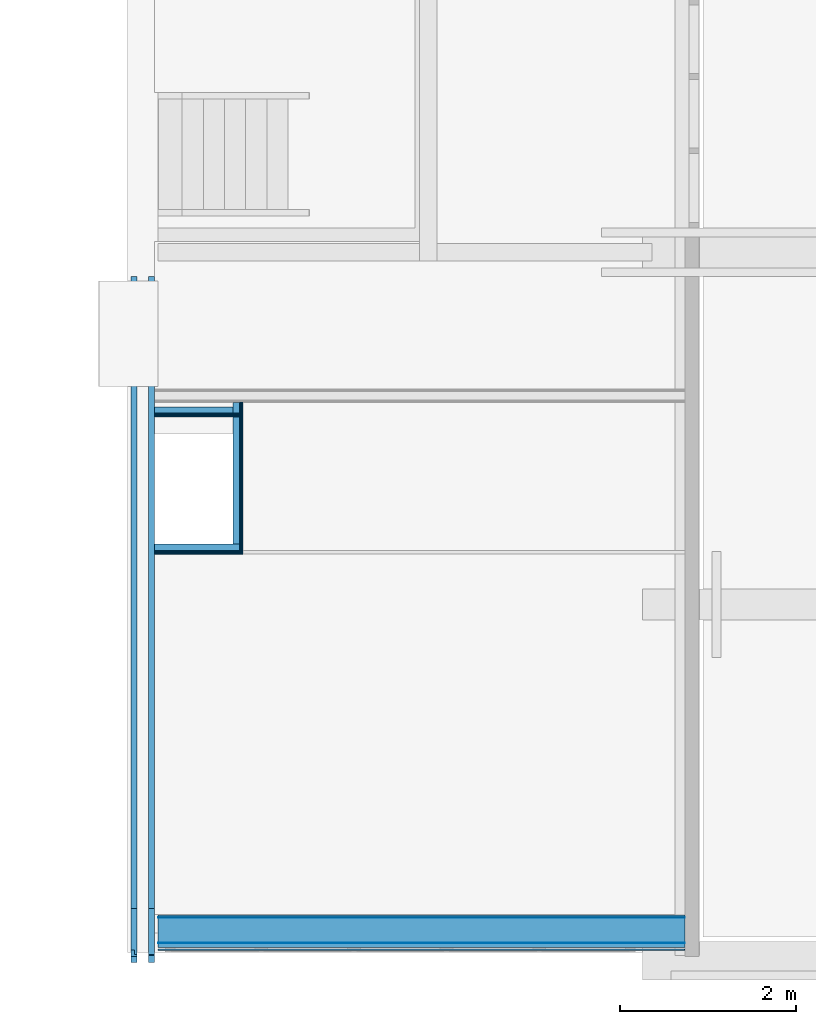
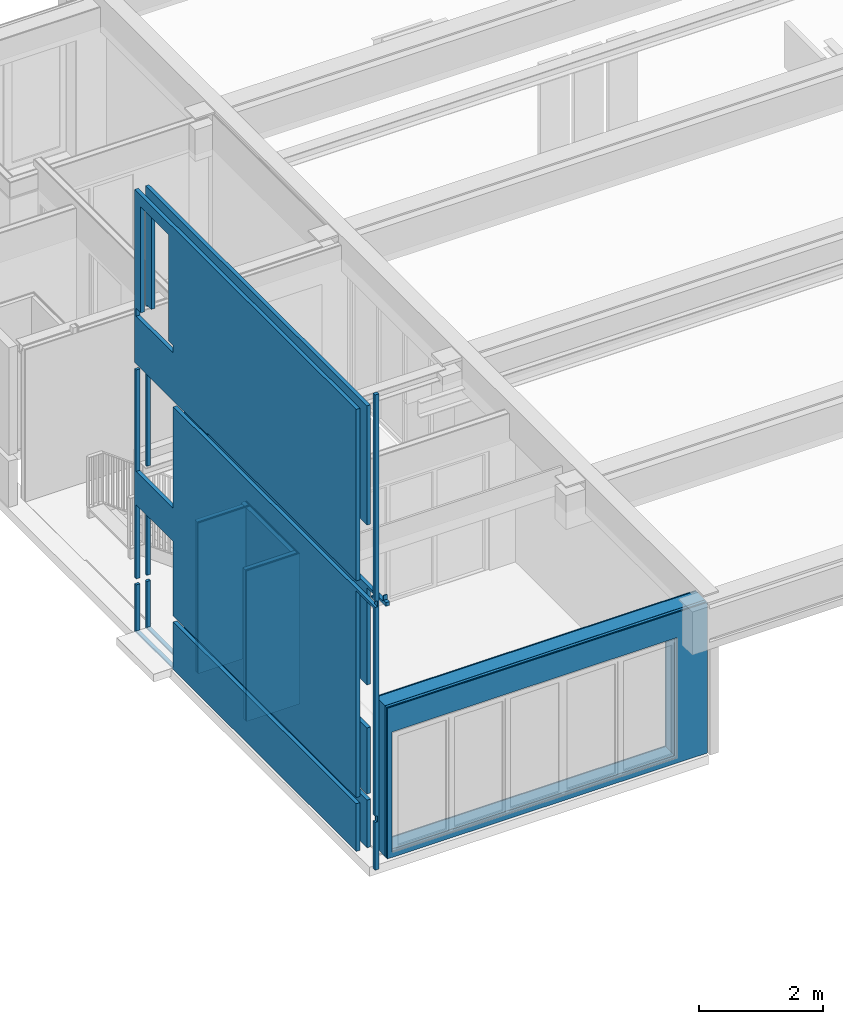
# One storey, part 5 of 13: 22 building element parts, 4 openings, 5 elements without a shape of their own.
"""IFC2X3 building model written with IfcOpenShell, lengths in millimetres."""

from ifc_helpers import new_model, entity, si_unit, converted_unit, derived_unit, money_unit, direction, frame, origin_with_axes, place, context, subcontext, project, spatial, faceted_brep, material, type_object, element, aggregate, save


model = new_model("IFC2X3")

# Units and contexts
model_context = context("Model", 3, precision=0.01, world=origin_with_axes(), true_north=direction((0.0, 1.0)))
body_context = subcontext(model_context, "Body", "Model", "MODEL_VIEW")
ifc_project = project(units=[si_unit("LENGTHUNIT", "METRE", prefix="MILLI"), si_unit("AREAUNIT", "SQUARE_METRE"), si_unit("VOLUMEUNIT", "CUBIC_METRE"), converted_unit("PLANEANGLEUNIT", "DEGREE", entity("IfcPlaneAngleMeasure", 0.0174532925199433), si_unit("PLANEANGLEUNIT", "RADIAN"), dimensions=[0, 0, 0, 0, 0, 0, 0]), money_unit("EUR"), converted_unit("TIMEUNIT", "Year", entity("IfcTimeMeasure", 31557600.0), si_unit("TIMEUNIT", "SECOND"), dimensions=[0, 0, 1, 0, 0, 0, 0]), si_unit("MASSUNIT", "GRAM", prefix="KILO"), si_unit("THERMODYNAMICTEMPERATUREUNIT", "DEGREE_CELSIUS"), si_unit("LUMINOUSINTENSITYUNIT", "LUMEN"), si_unit("ENERGYUNIT", "JOULE", prefix="MEGA"), derived_unit("THERMALCONDUCTANCEUNIT", [(si_unit("POWERUNIT", "WATT"), 1), (si_unit("LENGTHUNIT", "METRE"), -1), (si_unit("THERMODYNAMICTEMPERATUREUNIT", "KELVIN"), -1)]), derived_unit("SPECIFICHEATCAPACITYUNIT", [(si_unit("ENERGYUNIT", "JOULE"), 1), (si_unit("MASSUNIT", "GRAM", prefix="KILO"), -1), (si_unit("THERMODYNAMICTEMPERATUREUNIT", "KELVIN"), -1)]), derived_unit("MASSDENSITYUNIT", [(si_unit("MASSUNIT", "GRAM", prefix="KILO"), 1), (si_unit("VOLUMEUNIT", "CUBIC_METRE"), -1)])], contexts=[model_context])

# Site, building, storey
site_placement = place(None, origin_with_axes())
site = spatial("IfcSite", under=ifc_project, at=site_placement, Name="<site naam>", CompositionType="ELEMENT")
building_placement = place(site_placement, origin_with_axes())
building = spatial("IfcBuilding", under=site, at=building_placement, Name="<Naam gebouw>", CompositionType="ELEMENT")
storey_placement = place(building_placement, frame((0.0, 0.0, 3188.0), z_axis=(0.0, 0.0, 1.0), x_axis=(1.0, 0.0, 0.0)))
storey = spatial("IfcBuildingStorey", under=building, at=storey_placement, Name="01 1e tussenverdieping", CompositionType="ELEMENT", Elevation=3188.0)

# Wall, openings, building element parts
wall_type_1 = type_object("IfcWallType", Name="metalstud-lucht-metalstud 270 270", PredefinedType="NOTDEFINED")
wall_1_placement = place(storey_placement, frame((52000.00000000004, -63.99999999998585, -29.99999999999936), z_axis=(0.0, 0.0, 1.0), x_axis=(0.0, 1.0, 0.0)))
wall_1 = element("IfcWall", 1, at=wall_1_placement, inside=storey, type_object=wall_type_1, Name="22_Binnenwand_metalstud-lucht-metalstud")
opening_1_placement = place(wall_1_placement, frame((7139.000000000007, 0.0, 29.99999999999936), z_axis=(0.0, 0.0, 1.0), x_axis=(1.0, 0.0, 0.0)))
element("IfcOpeningElement", 2, at=opening_1_placement, cuts=wall_1, Name="22__305", context=body_context, shape_type="Brep", body=[
    faceted_brep([(599.9999999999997, 135.9999999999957, 2500.0), (599.9999999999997, 135.9999999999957, 0.0), (-599.9999999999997, 135.9999999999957, 0.0), (-599.9999999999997, 135.9999999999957, 2500.0), (599.9999999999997, -135.9999999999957, 2500.0), (599.9999999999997, -135.9999999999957, 0.0), (-599.9999999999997, -135.9999999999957, 0.0), (-599.9999999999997, -135.9999999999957, 2500.0)], [[[0, 1, 2, 3]], [[4, 5, 1, 0]], [[5, 6, 2, 1]], [[6, 7, 3, 2]], [[7, 4, 0, 3]], [[6, 5, 4, 7]]]),
])
opening_2_placement = place(wall_1_placement, frame((7139.00000000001, 0.0, 3186.999999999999), z_axis=(0.0, 0.0, 1.0), x_axis=(1.0, 0.0, 0.0)))
element("IfcOpeningElement", 3, at=opening_2_placement, cuts=wall_1, Name="22__305", context=body_context, shape_type="Brep", body=[
    faceted_brep([(599.9999999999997, 135.9999999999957, 2005.000000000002), (599.9999999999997, 135.9999999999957, 0.0), (-599.9999999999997, 135.9999999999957, 0.0), (-599.9999999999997, 135.9999999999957, 2005.000000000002), (599.9999999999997, -135.9999999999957, 2005.000000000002), (599.9999999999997, -135.9999999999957, 0.0), (-599.9999999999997, -135.9999999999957, 0.0), (-599.9999999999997, -135.9999999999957, 2005.000000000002)], [[[0, 1, 2, 3]], [[4, 5, 1, 0]], [[5, 6, 2, 1]], [[6, 7, 3, 2]], [[7, 4, 0, 3]], [[6, 5, 4, 7]]]),
])
opening_3_placement = place(wall_1_placement, frame((7144.000000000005, 0.0, 6404.999999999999), z_axis=(0.0, 0.0, 1.0), x_axis=(1.0, 0.0, 0.0)))
element("IfcOpeningElement", 4, at=opening_3_placement, cuts=wall_1, Name="22__305", context=body_context, shape_type="Brep", body=[
    faceted_brep([(450.0000000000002, 135.9999999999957, 2100.0), (450.0000000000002, 135.9999999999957, 0.0), (-450.0000000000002, 135.9999999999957, 0.0), (-450.0000000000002, 135.9999999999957, 2100.0), (450.0000000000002, -135.9999999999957, 2100.0), (450.0000000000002, -135.9999999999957, 0.0), (-450.0000000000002, -135.9999999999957, 0.0), (-450.0000000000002, -135.9999999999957, 2100.0)], [[[0, 1, 2, 3]], [[4, 5, 1, 0]], [[5, 6, 2, 1]], [[6, 7, 3, 2]], [[7, 4, 0, 3]], [[6, 5, 4, 7]]]),
])
ifc_material_1 = material(Name="metal_stud")
building_element_part_1_placement = place(wall_1_placement, origin_with_axes())
building_element_part_1 = element("IfcBuildingElementPart", 5, at=building_element_part_1_placement, material=ifc_material_1, Name="metal_stud", context=body_context, shape_type="Brep", body=[
    faceted_brep([(6539.0, -134.999999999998, 6374.499999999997), (6539.0, -134.999999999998, 6404.999999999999), (7739.0, -134.999999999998, 6404.999999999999), (7739.0, -134.999999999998, 6374.499999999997), (7789.000000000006, -134.999999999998, 6374.499999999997), (7789.000000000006, -134.999999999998, 8732.0), (613.9999999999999, -134.999999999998, 8732.0), (613.9999999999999, -134.999999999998, 6374.499999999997), (6539.0, -65.0000099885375, 6374.499999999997), (6539.0, -65.00000305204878, 6404.999999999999), (7739.0, -65.00000305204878, 6404.999999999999), (7739.0, -65.00000332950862, 6374.499999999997), (7789.000000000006, -65.00000305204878, 6374.499999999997), (7789.000000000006, -64.99999999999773, 8732.0), (613.9999999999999, -64.99999999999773, 8732.0), (613.9999999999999, -65.00004286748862, 6374.499999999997)], [[[0, 1, 2, 3, 4, 5, 6, 7]], [[1, 0, 8, 9]], [[2, 1, 9, 10]], [[3, 2, 10, 11]], [[3, 11, 12, 4]], [[4, 12, 13, 5]], [[5, 13, 14, 6]], [[14, 15, 7, 6]], [[8, 0, 7, 15]], [[9, 8, 15, 14, 13, 12, 11, 10]]]),
    faceted_brep([(74.9106781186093, -134.999999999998, 5312.000001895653), (74.9106781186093, -134.999999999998, 5216.999999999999), (0.0, -134.999999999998, 5216.999999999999), (0.0, -134.999999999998, 5141.999999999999), (614.0000000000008, -134.999999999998, 5141.999999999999), (614.0000000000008, -134.999999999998, 3216.999999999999), (7789.000000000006, -134.999999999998, 3216.999999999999), (7789.000000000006, -134.999999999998, 5192.0), (90.83801295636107, -134.999999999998, 5192.0), (90.83801295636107, -134.999999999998, 5312.000008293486), (74.9106781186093, -64.99999999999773, 5216.999999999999), (74.9106781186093, -64.99999999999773, 5312.000005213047), (0.0, -64.99999999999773, 5216.999999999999), (0.0, -65.00002351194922, 5141.999999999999), (614.0000000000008, -64.99999999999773, 5141.999999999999), (64.00000000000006, -65.00002351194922, 5141.999999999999), (614.0000000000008, -65.00002194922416, 3216.999999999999), (7789.000000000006, -65.00000156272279, 3216.999999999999), (7789.000000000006, -64.99999999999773, 5192.0), (90.83801295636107, -64.99999999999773, 5192.0), (90.83801295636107, -64.99999999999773, 5312.000008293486)], [[[0, 1, 2, 3, 4, 5, 6, 7, 8, 9]], [[10, 1, 0, 11]], [[12, 2, 1, 10]], [[13, 3, 2, 12]], [[14, 4, 3, 13, 15]], [[5, 4, 14, 16]], [[5, 16, 17, 6]], [[18, 7, 6, 17]], [[7, 18, 19, 8]], [[19, 20, 9, 8]], [[20, 11, 0, 9]], [[19, 18, 17, 16, 14, 15, 13, 12, 10, 11, 20]]]),
    faceted_brep([(613.9999999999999, -134.999999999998, 2366.999999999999), (613.9999999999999, -65.00002194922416, 2366.999999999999), (613.9999999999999, -64.99999999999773, 1061.999999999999), (613.9999999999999, -134.999999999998, 1061.999999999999), (7789.000000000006, -65.00000156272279, 2366.999999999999), (7789.000000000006, -134.999999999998, 2366.999999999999), (7789.000000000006, -64.99999999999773, 1061.999999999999), (7789.000000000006, -134.999999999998, 1061.999999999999)], [[[0, 1, 2, 3]], [[4, 1, 0, 5]], [[6, 2, 1, 4]], [[7, 3, 2, 6]], [[0, 3, 7, 5]], [[4, 5, 7, 6]]]),
    faceted_brep([(613.9999999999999, -64.99999999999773, 941.9999999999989), (613.9999999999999, -134.999999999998, 941.9999999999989), (7789.000000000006, -134.999999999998, 941.9999999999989), (7789.000000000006, -64.99999999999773, 941.9999999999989), (613.9999999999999, -134.999999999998, 0.0), (613.9999999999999, -65.00006609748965, 0.0), (7789.000000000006, -134.999999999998, 0.0), (7789.000000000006, -65.0000047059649, 0.0)], [[[0, 1, 2, 3]], [[4, 1, 0, 5]], [[1, 4, 6, 2]], [[3, 2, 6, 7]], [[5, 0, 3, 7]], [[4, 5, 7, 6]]]),
])
building_element_part_2_placement = place(wall_1_placement, origin_with_axes())
building_element_part_2 = element("IfcBuildingElementPart", 6, at=building_element_part_2_placement, material=ifc_material_1, Name="metal_stud", context=body_context, shape_type="Brep", body=[
    faceted_brep([(90.83801295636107, 64.99999999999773, 5192.0), (90.83801295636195, 64.99999999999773, 5311.999999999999), (90.83801295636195, 64.99999999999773, 5341.999999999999), (64.00000000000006, 64.99999999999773, 5341.999999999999), (63.99997390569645, 64.99999999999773, 9392.000014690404), (0.0, 64.99999999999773, 9392.000014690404), (0.0, 64.99999999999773, 0.0), (64.00000000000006, 64.99999999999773, 0.0), (64.00000000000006, 64.99999999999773, 5141.999999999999), (614.0000000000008, 64.99999999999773, 5141.999999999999), (614.0000000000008, 64.99999999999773, 1061.999999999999), (7789.000000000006, 64.99999999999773, 1061.999999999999), (7789.000000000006, 64.99999999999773, 5192.0), (90.83801295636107, 95.00000000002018, 5192.0), (90.83801295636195, 95.00000000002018, 5311.999999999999), (90.83801295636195, 95.00000000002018, 5341.999999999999), (139.0000000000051, 95.00000000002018, 5341.999999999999), (139.0000000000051, 134.999999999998, 5341.999999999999), (64.00000000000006, 134.999999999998, 5341.999999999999), (63.99997390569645, 134.999999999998, 9392.000014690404), (0.0, 134.999999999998, 9392.000014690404), (0.0, 134.999999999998, 5192.0), (0.0, 134.999999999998, 1061.999999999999), (0.0, 95.50000000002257, 1061.999999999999), (0.0, 95.50000000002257, 941.9999999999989), (0.0, 134.999999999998, 941.9999999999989), (0.0, 134.999999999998, 0.0), (0.0, 134.999999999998, 5311.999999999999), (0.0, 95.00000000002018, 5311.999999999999), (0.0, 95.00000000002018, 5192.0), (64.00000000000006, 134.999999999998, 0.0), (64.00000000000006, 134.999999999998, 941.9999999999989), (64.00000000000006, 95.50000000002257, 941.9999999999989), (64.00000000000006, 95.50000000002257, 1061.999999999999), (64.00000000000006, 134.999999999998, 1061.999999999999), (64.00000000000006, 134.999999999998, 5141.999999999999), (614.0000000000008, 134.999999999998, 5141.999999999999), (614.0000000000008, 134.999999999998, 1061.999999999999), (7789.000000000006, 134.999999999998, 1061.999999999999), (7789.000000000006, 134.999999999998, 5192.0), (139.0000000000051, 95.00000000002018, 5311.999999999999), (139.0000000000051, 134.999999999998, 5311.999999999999)], [[[0, 1, 2, 3, 4, 5, 6, 7, 8, 9, 10, 11, 12]], [[13, 14, 1, 0]], [[14, 15, 2, 1]], [[15, 16, 17, 18, 3, 2]], [[4, 3, 18, 19]], [[20, 5, 4, 19]], [[21, 22, 23, 24, 25, 26, 6, 5, 20, 27, 28, 29]], [[26, 30, 7, 6]], [[31, 32, 33, 34, 35, 8, 7, 30]], [[36, 9, 8, 35]], [[9, 36, 37, 10]], [[11, 10, 37, 38]], [[39, 12, 11, 38]], [[39, 21, 29, 13, 0, 12]], [[13, 29, 28, 14]], [[40, 16, 15, 14]], [[41, 17, 16, 40]], [[18, 17, 41, 27, 20, 19]], [[34, 22, 21, 39, 38, 37, 36, 35]], [[22, 34, 33, 23]], [[23, 33, 32, 24]], [[24, 32, 31, 25]], [[25, 31, 30, 26]], [[41, 40, 14, 28, 27]]]),
    faceted_brep([(5404.999998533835, 135.0000000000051, 5341.999999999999), (5292.499998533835, 135.0000000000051, 5341.999999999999), (614.0000000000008, 134.999999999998, 5341.999999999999), (614.0000000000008, 134.999999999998, 8732.0), (7789.000000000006, 134.999999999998, 8732.0), (7789.000000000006, 134.999999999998, 5311.999999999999), (5423.000000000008, 134.999999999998, 5311.999999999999), (5423.000000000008, 134.999999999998, 5341.999999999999), (6539.0, 135.0000000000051, 6254.999999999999), (7739.0, 135.0000000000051, 6254.999999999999), (7739.0, 135.0000000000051, 6404.999999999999), (6539.0, 135.0000000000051, 6404.999999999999), (5423.000000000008, 64.99999999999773, 5341.999999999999), (614.0000000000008, 64.99999999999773, 5341.999999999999), (614.0000000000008, 64.99999999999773, 8732.0), (7789.000000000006, 64.99999999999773, 8732.0), (7789.000000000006, 64.99999999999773, 5311.999999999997), (5423.000000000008, 64.99999999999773, 5311.999999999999), (6539.0, 64.99999999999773, 6254.999999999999), (7739.0, 64.99999999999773, 6254.999999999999), (7739.0, 64.99999999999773, 6404.999999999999), (6539.0, 64.99999999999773, 6404.999999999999)], [[[0, 1, 2, 3, 4, 5, 6, 7], [8, 9, 10, 11]], [[7, 12, 13, 2, 1, 0]], [[3, 2, 13, 14]], [[4, 3, 14, 15]], [[4, 15, 16, 5]], [[16, 17, 6, 5]], [[6, 17, 12, 7]], [[18, 19, 9, 8]], [[19, 20, 10, 9]], [[20, 21, 11, 10]], [[21, 18, 8, 11]], [[13, 12, 17, 16, 15, 14], [18, 21, 20, 19]]]),
    faceted_brep([(613.9999999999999, 134.999999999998, 941.9999999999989), (613.9999999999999, 64.99999999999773, 941.9999999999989), (7789.000000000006, 64.99999999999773, 941.9999999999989), (7789.000000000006, 134.999999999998, 941.9999999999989), (613.9999999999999, 64.99999999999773, 0.0), (613.9999999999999, 134.999999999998, 0.0), (7789.000000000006, 64.99999999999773, 0.0), (7789.000000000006, 134.999999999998, 0.0)], [[[0, 1, 2, 3]], [[4, 1, 0, 5]], [[1, 4, 6, 2]], [[3, 2, 6, 7]], [[5, 0, 3, 7]], [[4, 5, 7, 6]]]),
])
aggregate(wall_1, [building_element_part_1, building_element_part_2])

# Wall, building element parts
wall_type_2 = type_object("IfcWallType", Name="MS-04 GF 138 V/100.3.A 113", PredefinedType="NOTDEFINED")
wall_2_placement = place(storey_placement, frame((52135.00000000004, 4685.000000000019, 0.0), z_axis=(0.0, 0.0, 1.0), x_axis=(1.0, 0.0, 0.0)))
wall_2 = element("IfcWall", 7, at=wall_2_placement, inside=storey, type_object=wall_type_2, Name="22_Binnenwand_MS-04")
ifc_material_2 = material(Name="gipsplaat")
building_element_part_3_placement = place(wall_2_placement, origin_with_axes())
building_element_part_3 = element("IfcBuildingElementPart", 8, at=building_element_part_3_placement, material=ifc_material_2, Name="gipsplaat", context=body_context, shape_type="Brep", body=[
    faceted_brep([(989.9999999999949, -99.99999999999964, 0.0), (0.0, -99.99999999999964, 0.0), (0.0, -87.50000000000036, 0.0), (989.9999999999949, -87.50000000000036, 0.0), (989.9999999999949, -99.99999999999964, 2977.0), (0.0, -99.99999999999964, 2977.0), (0.0, -87.49999999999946, 2977.0), (989.9999999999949, -87.49999999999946, 2977.0)], [[[0, 1, 2, 3]], [[4, 5, 1, 0]], [[2, 1, 5, 6]], [[3, 2, 6, 7]], [[3, 7, 4, 0]], [[7, 6, 5, 4]]]),
])
building_element_part_4_placement = place(wall_2_placement, origin_with_axes())
building_element_part_4 = element("IfcBuildingElementPart", 9, at=building_element_part_4_placement, material=ifc_material_2, Name="gipsplaat", context=body_context, shape_type="Brep", body=[
    faceted_brep([(977.499999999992, -87.50000000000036, 0.0), (0.0, -87.50000000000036, 0.0), (0.0, -75.00000000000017, 0.0), (977.499999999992, -75.00000000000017, 0.0), (977.499999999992, -87.49999999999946, 2977.0), (0.0, -87.49999999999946, 2977.0), (0.0, -75.00000000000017, 2977.0), (977.499999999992, -75.00000000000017, 2977.0)], [[[0, 1, 2, 3]], [[4, 5, 1, 0]], [[2, 1, 5, 6]], [[3, 2, 6, 7]], [[3, 7, 4, 0]], [[7, 6, 5, 4]]]),
])

# Wall, building element part
wall_3_placement = place(storey_placement, frame((53025.00000000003, 4685.000000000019, 0.0), z_axis=(0.0, 0.0, 1.0), x_axis=(0.0, 1.0, 0.0)))
wall_3 = element("IfcWall", 10, at=wall_3_placement, inside=storey, type_object=wall_type_2, Name="22_Binnenwand_MS-04")
ifc_material_3 = material(Name="isolatie_steenwol LSW")
building_element_part_5_placement = place(wall_3_placement, origin_with_axes())
building_element_part_5 = element("IfcBuildingElementPart", 11, at=building_element_part_5_placement, material=ifc_material_3, Name="isolatie_steenwol LSW", context=body_context, shape_type="Brep", body=[
    faceted_brep([(1610.0, -75.00000000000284, 0.0), (1485.0, -75.00000000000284, 0.0), (1485.0, 0.0, 0.0), (1610.0, 0.0, 0.0), (1610.0, -75.00000000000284, 2977.0), (1485.0, -75.00000000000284, 2977.0), (1485.0, 0.0, 2977.0), (1610.0, 0.0, 2977.0)], [[[0, 1, 2, 3]], [[4, 5, 1, 0]], [[2, 1, 5, 6]], [[3, 2, 6, 7]], [[3, 7, 4, 0]], [[7, 6, 5, 4]]]),
    faceted_brep([(1447.500000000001, -75.00000000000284, 0.0), (0.0, -75.00000000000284, 0.0), (0.0, 0.0, 0.0), (1447.500000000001, 0.0, 0.0), (1447.500000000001, -75.00000000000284, 2977.0), (0.0, -75.00000000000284, 2977.0), (0.0, 0.0, 2977.0), (1447.500000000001, 0.0, 2977.0)], [[[0, 1, 2, 3]], [[4, 5, 1, 0]], [[2, 1, 5, 6]], [[3, 2, 6, 7]], [[3, 7, 4, 0]], [[7, 6, 5, 4]]]),
])

# Building element part
building_element_part_6_placement = place(wall_2_placement, origin_with_axes())
building_element_part_6 = element("IfcBuildingElementPart", 12, at=building_element_part_6_placement, material=ifc_material_2, Name="gipsplaat", context=body_context, shape_type="Brep", body=[
    faceted_brep([(1002.499999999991, -112.4999999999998, 0.0), (0.0, -112.4999999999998, 0.0), (0.0, -99.99999999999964, 0.0), (1002.499999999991, -99.99999999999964, 0.0), (1002.499999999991, -112.4999999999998, 2977.0), (0.0, -112.4999999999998, 2977.0), (0.0, -99.99999999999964, 2977.0), (1002.499999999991, -99.99999999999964, 2977.0)], [[[0, 1, 2, 3]], [[4, 5, 1, 0]], [[2, 1, 5, 6]], [[3, 2, 6, 7]], [[3, 7, 4, 0]], [[7, 6, 5, 4]]]),
])

building_element_part_7_placement = place(wall_3_placement, origin_with_axes())
building_element_part_7 = element("IfcBuildingElementPart", 13, at=building_element_part_7_placement, material=ifc_material_2, Name="gipsplaat", context=body_context, shape_type="Brep", body=[
    faceted_brep([(1610.0, -87.49999999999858, 0.0), (-75.00000000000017, -87.49999999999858, 0.0), (-75.00000000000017, -75.00000000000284, 0.0), (1610.0, -75.00000000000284, 0.0), (1610.0, -87.49999999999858, 2977.0), (-75.00000000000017, -87.49999999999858, 2977.0), (-75.00000000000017, -75.00000000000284, 2977.0), (1610.0, -75.00000000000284, 2977.0)], [[[0, 1, 2, 3]], [[4, 5, 1, 0]], [[2, 1, 5, 6]], [[3, 2, 6, 7]], [[3, 7, 4, 0]], [[7, 6, 5, 4]]]),
])

building_element_part_8_placement = place(wall_3_placement, origin_with_axes())
building_element_part_8 = element("IfcBuildingElementPart", 14, at=building_element_part_8_placement, material=ifc_material_2, Name="gipsplaat", context=body_context, shape_type="Brep", body=[
    faceted_brep([(1610.0, -100.0000000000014, 0.0), (-87.50000000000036, -100.0000000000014, 0.0), (-87.50000000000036, -87.49999999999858, 0.0), (1610.0, -87.49999999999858, 0.0), (1610.0, -100.0000000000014, 2977.0), (-87.50000000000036, -100.0000000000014, 2977.0), (-87.50000000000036, -87.49999999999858, 2977.0), (1610.0, -87.49999999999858, 2977.0)], [[[0, 1, 2, 3]], [[4, 5, 1, 0]], [[2, 1, 5, 6]], [[3, 2, 6, 7]], [[3, 7, 4, 0]], [[7, 6, 5, 4]]]),
])

building_element_part_9_placement = place(wall_3_placement, origin_with_axes())
building_element_part_9 = element("IfcBuildingElementPart", 15, at=building_element_part_9_placement, material=ifc_material_2, Name="gipsplaat", context=body_context, shape_type="Brep", body=[
    faceted_brep([(1610.0, -112.4999999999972, 0.0), (-99.99999999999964, -112.4999999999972, 0.0), (-99.99999999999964, -100.0000000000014, 0.0), (1610.0, -100.0000000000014, 0.0), (1610.0, -112.4999999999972, 2977.0), (-99.99999999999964, -112.4999999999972, 2977.0), (-99.99999999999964, -100.0000000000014, 2977.0), (1610.0, -100.0000000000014, 2977.0)], [[[0, 1, 2, 3]], [[4, 5, 1, 0]], [[2, 1, 5, 6]], [[3, 2, 6, 7]], [[3, 7, 4, 0]], [[7, 6, 5, 4]]]),
])

aggregate(wall_3, [building_element_part_5, building_element_part_7, building_element_part_8, building_element_part_9])

building_element_part_10_placement = place(wall_2_placement, origin_with_axes())
building_element_part_10 = element("IfcBuildingElementPart", 16, at=building_element_part_10_placement, material=ifc_material_3, Name="isolatie_steenwol LSW", context=body_context, shape_type="Brep", body=[
    faceted_brep([(964.9999999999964, -75.00000000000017, 0.0), (0.0, -75.00000000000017, 0.0), (0.0, 0.0, 0.0), (964.9999999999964, 0.0, 0.0), (964.9999999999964, -75.00000000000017, 2977.0), (0.0, -75.00000000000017, 2977.0), (0.0, 0.0, 2977.0), (964.9999999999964, 0.0, 2977.0)], [[[0, 1, 2, 3]], [[4, 5, 1, 0]], [[2, 1, 5, 6]], [[3, 2, 6, 7]], [[3, 7, 4, 0]], [[7, 6, 5, 4]]]),
])

aggregate(wall_2, [building_element_part_3, building_element_part_4, building_element_part_6, building_element_part_10])

# Wall, opening, building element parts
wall_type_3 = type_object("IfcWallType", Name="HSB_285 gevelbeplating Brise Soleil 398", PredefinedType="NOTDEFINED")
wall_4_placement = place(storey_placement, frame((52174.96671664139, 472.4998058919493, 0.0), z_axis=(0.0, 0.0, 1.0), x_axis=(1.0, 0.0, 0.0)))
wall_4 = element("IfcWall", 17, at=wall_4_placement, inside=storey, type_object=wall_type_3, Name="22_Binnenwand_HSB_285")
opening_4_placement = place(wall_4_placement, frame((2749.970617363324, 0.0, 102.4631920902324), z_axis=(0.0, 0.0, 1.0), x_axis=(1.0, 0.0, 0.0)))
element("IfcOpeningElement", 18, at=opening_4_placement, cuts=wall_4, Name="22_BU-B-11_305", context=body_context, shape_type="Brep", body=[
    faceted_brep([(2664.461586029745, 1.000000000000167, 2377.0), (2664.461586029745, 1.000000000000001, 0.0), (-2664.461586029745, 1.000000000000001, 0.0), (-2664.461586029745, 1.000000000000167, 2377.0), (2664.461586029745, -398.5000000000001, 2377.0), (2664.461586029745, -398.5000000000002, 0.0), (-2664.461586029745, -398.5000000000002, 0.0), (-2664.461586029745, -398.5000000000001, 2377.0)], [[[0, 1, 2, 3]], [[4, 5, 1, 0]], [[5, 6, 2, 1]], [[6, 7, 3, 2]], [[7, 4, 0, 3]], [[6, 5, 4, 7]]]),
])
ifc_material_4 = material(Name="hout_OSB")
building_element_part_11_placement = place(wall_4_placement, origin_with_axes())
building_element_part_11 = element("IfcBuildingElementPart", 19, at=building_element_part_11_placement, material=ifc_material_4, Name="hout_OSB", context=body_context, shape_type="Brep", body=[
    faceted_brep([(5982.816128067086, -27.49999999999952, 3.000000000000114), (5982.816128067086, -12.49999999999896, 3.000000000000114), (5982.816128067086, -12.4999999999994, 2977.0), (5982.816128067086, -27.49999999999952, 2977.0), (0.0, -12.49999999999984, 3.000000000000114), (0.0, -27.49999999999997, 3.000000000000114), (0.0, -12.49999999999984, 2977.0), (0.0, -27.49999999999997, 2977.0)], [[[0, 1, 2, 3]], [[4, 1, 0, 5]], [[1, 4, 6, 2]], [[7, 3, 2, 6]], [[5, 0, 3, 7]], [[4, 5, 7, 6]]]),
])
ifc_material_5 = material(Name="folie_dampdicht")
building_element_part_12_placement = place(wall_4_placement, origin_with_axes())
building_element_part_12 = element("IfcBuildingElementPart", 20, at=building_element_part_12_placement, material=ifc_material_5, Name="folie_dampdicht", context=body_context, shape_type="Brep", body=[
    faceted_brep([(5982.816128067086, -28.00000000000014, 3.000000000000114), (5982.816128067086, -27.49999999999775, 3.000000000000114), (5982.816128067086, -27.49999999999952, 2977.0), (5982.816128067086, -27.99999999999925, 2977.0), (0.0, -27.49999999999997, 3.000000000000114), (0.0, -28.00000000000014, 3.000000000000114), (0.0, -27.49999999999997, 2977.0), (0.0, -27.99999999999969, 2977.0)], [[[0, 1, 2, 3]], [[4, 1, 0, 5]], [[1, 4, 6, 2]], [[7, 3, 2, 6]], [[5, 0, 3, 7]], [[4, 5, 7, 6]]]),
])
ifc_material_6 = material(Name="isolatie_houtvezel")
building_element_part_13_placement = place(wall_4_placement, origin_with_axes())
building_element_part_13 = element("IfcBuildingElementPart", 21, at=building_element_part_13_placement, material=ifc_material_6, Name="isolatie_houtvezel", context=body_context, shape_type="Brep", body=[
    faceted_brep([(5982.816128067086, -203.4998058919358, 0.0), (5982.816128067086, -203.4998058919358, 3.000000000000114), (5982.816128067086, -27.99999999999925, 3.000000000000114), (5982.816128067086, -27.99999999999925, 2977.0), (5982.816128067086, -312.9999999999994, 2977.0), (5982.816128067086, -312.9999999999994, 0.0), (0.0, -203.4998058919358, 0.0), (0.0, -203.4998058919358, 3.000000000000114), (0.0, -28.00000000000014, 3.000000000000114), (0.0, -27.99999999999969, 2977.0), (0.0, -312.9999999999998, 2977.0), (0.0, -312.9999999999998, 0.0)], [[[0, 1, 2, 3, 4, 5]], [[1, 0, 6, 7]], [[8, 2, 1, 7]], [[2, 8, 9, 3]], [[10, 4, 3, 9]], [[11, 5, 4, 10]], [[6, 0, 5, 11]], [[7, 6, 11, 10, 9, 8]]]),
])
building_element_part_14_placement = place(wall_4_placement, origin_with_axes())
building_element_part_14 = element("IfcBuildingElementPart", 22, at=building_element_part_14_placement, material=ifc_material_2, Name="gipsplaat", context=body_context, shape_type="Brep", body=[
    faceted_brep([(5982.816128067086, -12.49999999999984, 3.000000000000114), (5982.816128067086, 0.0, 3.000000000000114), (5982.816128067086, 0.0, 2977.0), (5982.816128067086, -12.4999999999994, 2977.0), (0.0, 0.0, 3.000000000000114), (0.0, -12.49999999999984, 3.000000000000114), (0.0, 0.0, 2977.0), (0.0, -12.49999999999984, 2977.0)], [[[0, 1, 2, 3]], [[4, 1, 0, 5]], [[1, 4, 6, 2]], [[7, 3, 2, 6]], [[5, 0, 3, 7]], [[4, 5, 7, 6]]]),
])
ifc_material_7 = material(Name="brandwerende_bekleding")
building_element_part_15_placement = place(wall_4_placement, origin_with_axes())
building_element_part_15 = element("IfcBuildingElementPart", 23, at=building_element_part_15_placement, material=ifc_material_7, Name="brandwerende_bekleding", context=body_context, shape_type="Brep", body=[
    faceted_brep([(5982.816128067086, -312.9999999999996, 0.0), (5982.816128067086, -317.4999999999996, 0.0), (0.0, -317.5, 0.0), (0.0, -313.0, 0.0), (5982.816128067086, -312.9999999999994, 2977.0), (5982.816128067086, -317.4999999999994, 2977.0), (0.0, -317.4999999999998, 2977.0), (0.0, -312.9999999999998, 2977.0)], [[[0, 1, 2, 3]], [[0, 4, 5, 1]], [[1, 5, 6, 2]], [[3, 2, 6, 7]], [[4, 0, 3, 7]], [[5, 4, 7, 6]]]),
])
ifc_material_8 = material(Name="folie_dampopen")
building_element_part_16_placement = place(wall_4_placement, origin_with_axes())
building_element_part_16 = element("IfcBuildingElementPart", 24, at=building_element_part_16_placement, material=ifc_material_8, Name="folie_dampopen", context=body_context, shape_type="Brep", body=[
    faceted_brep([(5982.816128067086, -317.4999999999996, 0.0), (5982.816128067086, -317.9999999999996, 0.0), (0.0, -318.0, 0.0), (0.0, -317.5, 0.0), (5982.816128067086, -317.4999999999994, 2977.0), (5982.816128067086, -317.9999999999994, 2977.0), (0.0, -317.9999999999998, 2977.0), (0.0, -317.4999999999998, 2977.0)], [[[0, 1, 2, 3]], [[0, 4, 5, 1]], [[1, 5, 6, 2]], [[3, 2, 6, 7]], [[4, 0, 3, 7]], [[5, 4, 7, 6]]]),
])
ifc_material_9 = material(Name="metaal - Aluminium gevelplaat")
building_element_part_17_placement = place(wall_4_placement, origin_with_axes())
building_element_part_17 = element("IfcBuildingElementPart", 25, at=building_element_part_17_placement, material=ifc_material_9, Name="metaal - Aluminium gevelplaat", context=body_context, shape_type="Brep", body=[
    faceted_brep([(5982.816128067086, -389.4999999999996, 0.0), (5982.816128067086, -397.4999999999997, 0.0), (0.0, -397.5, 0.0), (0.0, -389.5, 0.0), (5982.816128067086, -389.4999999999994, 2977.0), (5982.816128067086, -397.4999999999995, 2977.0), (0.0, -397.4999999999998, 2977.0), (0.0, -389.4999999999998, 2977.0)], [[[0, 1, 2, 3]], [[0, 4, 5, 1]], [[1, 5, 6, 2]], [[3, 2, 6, 7]], [[4, 0, 3, 7]], [[5, 4, 7, 6]]]),
])
ifc_material_10 = material(Name="isolatie _steenwol_hard")
building_element_part_18_placement = place(wall_4_placement, origin_with_axes())
building_element_part_18 = element("IfcBuildingElementPart", 26, at=building_element_part_18_placement, material=ifc_material_10, Name="isolatie _steenwol_hard", context=body_context, shape_type="Brep", body=[
    faceted_brep([(5982.816128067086, -317.9999999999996, 0.0), (5982.816128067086, -367.9999999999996, 0.0), (0.0, -368.0, 0.0), (0.0, -318.0, 0.0), (5982.816128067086, -317.9999999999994, 2977.0), (5982.816128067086, -367.9999999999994, 2977.0), (0.0, -367.9999999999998, 2977.0), (0.0, -317.9999999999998, 2977.0)], [[[0, 1, 2, 3]], [[0, 4, 5, 1]], [[1, 5, 6, 2]], [[3, 2, 6, 7]], [[4, 0, 3, 7]], [[5, 4, 7, 6]]]),
])
aggregate(wall_4, [building_element_part_11, building_element_part_12, building_element_part_13, building_element_part_14, building_element_part_15, building_element_part_16, building_element_part_17, building_element_part_18])

# Wall, building element parts
wall_5_placement = place(storey_placement, frame((52135.00000000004, 6245.00000000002, 0.0), z_axis=(0.0, 0.0, 1.0), x_axis=(1.0, 0.0, 0.0)))
wall_5 = element("IfcWall", 27, at=wall_5_placement, inside=storey, type_object=wall_type_2, Name="22_Binnenwand_MS-04")
building_element_part_19_placement = place(wall_5_placement, origin_with_axes())
building_element_part_19 = element("IfcBuildingElementPart", 28, at=building_element_part_19_placement, material=ifc_material_3, Name="isolatie_steenwol LSW", context=body_context, shape_type="Brep", body=[
    faceted_brep([(889.9999999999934, -75.00000000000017, 0.0), (0.0, -75.00000000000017, 0.0), (0.0, 0.0, 0.0), (889.9999999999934, 0.0, 0.0), (889.9999999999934, -75.00000000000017, 2977.0), (0.0, -75.00000000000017, 2977.0), (0.0, 0.0, 2977.0), (889.9999999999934, 0.0, 2977.0)], [[[0, 1, 2, 3]], [[4, 5, 1, 0]], [[2, 1, 5, 6]], [[3, 2, 6, 7]], [[3, 7, 4, 0]], [[7, 6, 5, 4]]]),
])
building_element_part_20_placement = place(wall_5_placement, origin_with_axes())
building_element_part_20 = element("IfcBuildingElementPart", 29, at=building_element_part_20_placement, material=ifc_material_2, Name="gipsplaat", context=body_context, shape_type="Brep", body=[
    faceted_brep([(964.9999999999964, -87.50000000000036, 0.0), (0.0, -87.50000000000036, 0.0), (0.0, -75.00000000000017, 0.0), (964.9999999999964, -75.00000000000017, 0.0), (964.9999999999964, -87.49999999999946, 2977.0), (0.0, -87.49999999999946, 2977.0), (0.0, -75.00000000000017, 2977.0), (964.9999999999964, -75.00000000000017, 2977.0)], [[[0, 1, 2, 3]], [[4, 5, 1, 0]], [[2, 1, 5, 6]], [[3, 2, 6, 7]], [[3, 7, 4, 0]], [[7, 6, 5, 4]]]),
])
building_element_part_21_placement = place(wall_5_placement, origin_with_axes())
building_element_part_21 = element("IfcBuildingElementPart", 30, at=building_element_part_21_placement, material=ifc_material_2, Name="gipsplaat", context=body_context, shape_type="Brep", body=[
    faceted_brep([(964.9999999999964, -112.4999999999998, 0.0), (0.0, -112.4999999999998, 0.0), (0.0, -99.99999999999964, 0.0), (964.9999999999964, -99.99999999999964, 0.0), (964.9999999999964, -112.4999999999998, 2977.0), (0.0, -112.4999999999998, 2977.0), (0.0, -99.99999999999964, 2977.0), (964.9999999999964, -99.99999999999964, 2977.0)], [[[0, 1, 2, 3]], [[4, 5, 1, 0]], [[2, 1, 5, 6]], [[3, 2, 6, 7]], [[3, 7, 4, 0]], [[7, 6, 5, 4]]]),
])
building_element_part_22_placement = place(wall_5_placement, origin_with_axes())
building_element_part_22 = element("IfcBuildingElementPart", 31, at=building_element_part_22_placement, material=ifc_material_2, Name="gipsplaat", context=body_context, shape_type="Brep", body=[
    faceted_brep([(964.9999999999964, -99.99999999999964, 0.0), (0.0, -99.99999999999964, 0.0), (0.0, -87.50000000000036, 0.0), (964.9999999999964, -87.50000000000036, 0.0), (964.9999999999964, -99.99999999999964, 2977.0), (0.0, -99.99999999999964, 2977.0), (0.0, -87.49999999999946, 2977.0), (964.9999999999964, -87.49999999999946, 2977.0)], [[[0, 1, 2, 3]], [[4, 5, 1, 0]], [[2, 1, 5, 6]], [[3, 2, 6, 7]], [[3, 7, 4, 0]], [[7, 6, 5, 4]]]),
])
aggregate(wall_5, [building_element_part_19, building_element_part_20, building_element_part_21, building_element_part_22])

save(model, "model.ifc")
